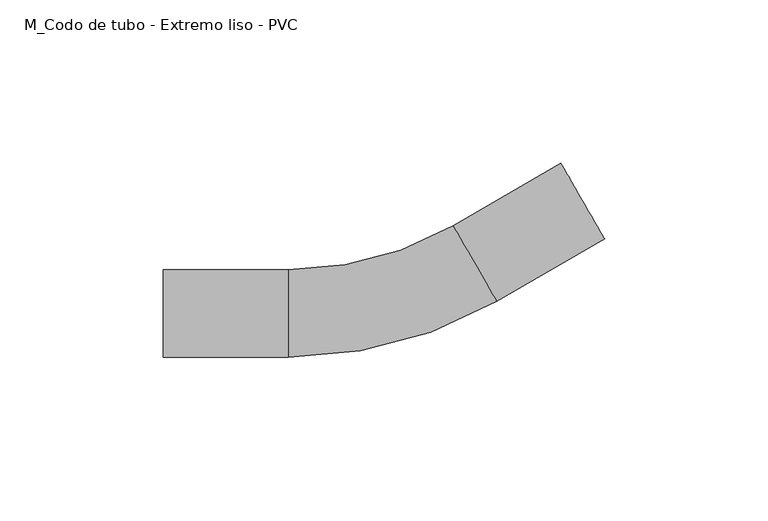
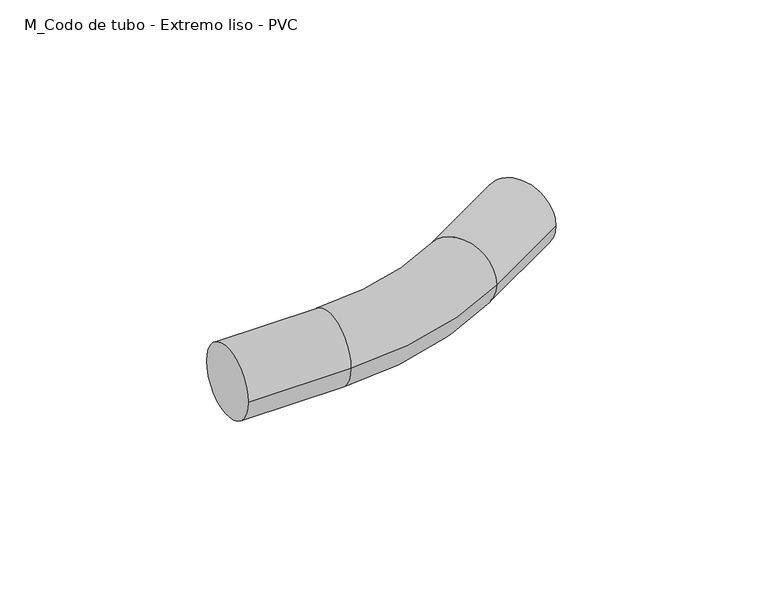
"""IFC4 building model written with IfcOpenShell, lengths in millimetres: cable carrier fitting geometry, M_Codo de tubo - Extremo liso - PVC : CODO ILUMINACION."""

from ifc_helpers import new_model, si_unit, point, frame, origin, place, context, project, spatial, circle_curve, ellipse_curve, trimmed, source, transform, mapped, element, save
from ifc_brep_helpers import plane_surface, cylinder_surface, revolved_surface, advanced_brep


def m_codo_de_tubo_extremo_liso_pvc_e6ab1ad8(model_context):
    return source(origin(), model_context, "Body", "AdvancedBrep", [
        advanced_brep(
        [(-68.7265927, -13.335, 0.0), (-68.7265927, 13.335, 0.0), (-30.6265927, -13.335, 0.0), (-30.6265927, 13.335, 0.0), (19.8559073, 26.8617451, 0.0), (33.1909073, 3.7648476, 0.0), (66.1864752, 22.8148476, 0.0), (52.8514752, 45.9117451, 0.0)],
        [
            (0, 1, circle_curve(frame((-68.7265927, 0.0, 0.0), z_axis=(-1.0, 0.0, 0.0), x_axis=(0.0, 1.0, 0.0)), 13.335)),
            (1, 0, circle_curve(frame((-68.7265927, 0.0, 0.0), z_axis=(-1.0, 0.0, 0.0), x_axis=(0.0, 1.0, 0.0)), 13.335)),
            (0, 2),
            (2, 3, circle_curve(frame((-30.6265927, 0.0, 0.0), z_axis=(-1.0, 0.0, 0.0), x_axis=(0.0, 1.0, 0.0)), 13.335)),
            (3, 1),
            (3, 2, circle_curve(frame((-30.6265927, 0.0, 0.0), z_axis=(-1.0, 0.0, 0.0), x_axis=(0.0, 1.0, 0.0)), 13.335)),
            (4, 3, circle_curve(frame((-30.6265927, 114.3, 0.0), z_axis=(0.0, 0.0, -1.0), x_axis=(0.0, -1.0, 0.0)), 100.965)),
            (2, 5, circle_curve(frame((-30.6265927, 114.3, 0.0), z_axis=(0.0, 0.0, 1.0), x_axis=(0.0, -1.0, 0.0)), 127.635)),
            (5, 4, circle_curve(frame((26.5234073, 15.3132963, 0.0), z_axis=(-0.8660254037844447, -0.4999999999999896, 0.0), x_axis=(-0.4999999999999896, 0.8660254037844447, 0.0)), 13.335)),
            (4, 5, circle_curve(frame((26.5234073, 15.3132963, 0.0), z_axis=(-0.8660254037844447, -0.4999999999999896, 0.0), x_axis=(-0.4999999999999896, 0.8660254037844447, 0.0)), 13.335)),
            (6, 7, circle_curve(frame((59.5189752, 34.3632963, 0.0), z_axis=(0.8660254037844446, 0.49999999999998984, 0.0), x_axis=(-0.49999999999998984, 0.8660254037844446, 0.0)), 13.335)),
            (7, 6, circle_curve(frame((59.5189752, 34.3632963, 0.0), z_axis=(0.8660254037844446, 0.49999999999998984, 0.0), x_axis=(-0.49999999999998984, 0.8660254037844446, 0.0)), 13.335)),
            (5, 6),
            (7, 4),
        ],
        [
            plane_surface(frame((-68.7265927, 0.0, 0.0), z_axis=(-1.0, 0.0, 0.0), x_axis=(0.0, 0.0, 1.0))),
            cylinder_surface(frame((-68.7265927, 0.0, 0.0), z_axis=(-1.0, 0.0, 0.0), x_axis=(0.0, 1.0, 0.0)), 13.335),
            revolved_surface(trimmed(ellipse_curve(frame((-30.6265927, 0.0, 0.0), z_axis=(-1.0, 0.0, 0.0), x_axis=(0.0, 1.0, 0.0)), 13.335, 13.335), [point((-30.6265927, -13.335, 0.0))], [point((-30.6265927, 13.335, 0.0))], True, "CARTESIAN"), (-30.6265927, 114.3, 0.0), (0.0, 0.0, 1.0)),
            revolved_surface(trimmed(ellipse_curve(frame((-30.6265927, 0.0, 0.0), z_axis=(-1.0, 0.0, 0.0), x_axis=(0.0, 1.0, 0.0)), 13.335, 13.335), [point((-30.6265927, 13.335, 0.0))], [point((-30.6265927, -13.335, 0.0))], True, "CARTESIAN"), (-30.6265927, 114.3, 0.0), (0.0, 0.0, 1.0)),
            plane_surface(frame((59.5189752, 34.3632963, 0.0), z_axis=(0.8660254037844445, 0.4999999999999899, 0.0), x_axis=(0.0, 0.0, 1.0))),
            cylinder_surface(frame((26.5234073, 15.3132963, 0.0), z_axis=(-0.8660254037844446, -0.49999999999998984, 0.0), x_axis=(-0.49999999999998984, 0.8660254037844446, 0.0)), 13.335),
        ],
        [
            (0, [[1, 2]]),
            (1, [[-1, 3, 4, 5]]),
            (1, [[-2, -5, 6, -3]]),
            (2, [[7, -4, 8, 9]]),
            (3, [[-8, -6, -7, 10]]),
            (4, [[11, 12]]),
            (5, [[-9, 13, -12, 14]]),
            (5, [[-10, -14, -11, -13]]),
        ],
    ),
    ])


if __name__ == "__main__":
    model = new_model("IFC4")
    model_context = context("Model", 3, world=origin())
    ifc_project = project(units=[si_unit("LENGTHUNIT", "METRE", prefix="MILLI")], contexts=[model_context])
    site = spatial("IfcSite", under=ifc_project)
    building = spatial("IfcBuilding", under=site)
    placement = place(None, origin())
    m_codo_de_tubo_extremo_liso_pvc_shape = m_codo_de_tubo_extremo_liso_pvc_e6ab1ad8(model_context)
    element("IfcCableCarrierFitting", 1, ObjectType="M_Codo de tubo - Extremo liso - PVC : CODO ILUMINACION", at=placement, inside=building, context=model_context, shape_type="MappedRepresentation", body=[
        mapped(m_codo_de_tubo_extremo_liso_pvc_shape, transform((0.0, 0.0, 0.0), x_axis=(1.0, 0.0, 0.0), y_axis=(0.0, 1.0, 0.0), z_axis=(0.0, 0.0, 1.0))),
    ])
    save(model, "model.ifc")
